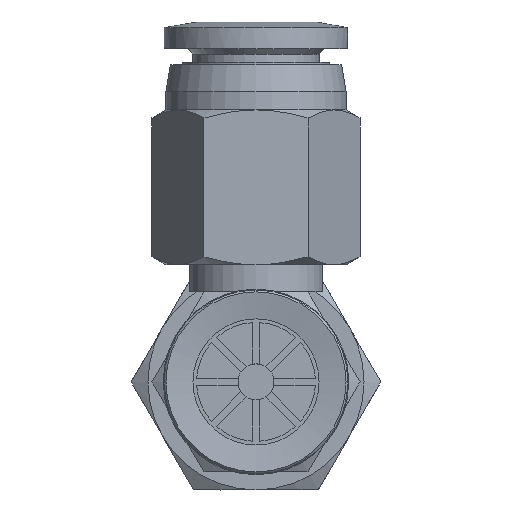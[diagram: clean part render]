
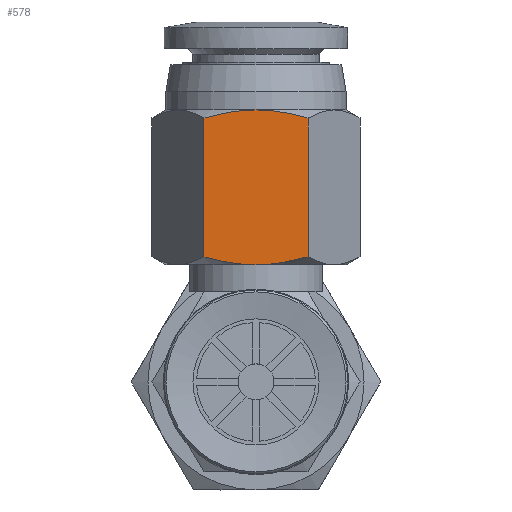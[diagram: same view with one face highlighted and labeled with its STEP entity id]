
A CAD part, front view. The second image highlights one B-rep face of the part: STEP entity #578.
In plain terms, the highlighted planar face has unit normal (0, -1, 0) as drawn and (0, 0, 1) by its records, which use the part's own axes.
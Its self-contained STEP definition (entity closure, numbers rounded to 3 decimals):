
#578=ADVANCED_FACE('',(#956),#957,.T.);
#956=FACE_OUTER_BOUND('',#1652,.T.);
#957=PLANE('',#1653);
#1652=EDGE_LOOP('',(#2655,#2656,#2657,#2658,#2659,#2660));
#1653=AXIS2_PLACEMENT_3D('',#2661,#2662,#2663);
#2655=ORIENTED_EDGE('',*,*,#3454,.F.);
#2656=ORIENTED_EDGE('',*,*,#3446,.F.);
#2657=ORIENTED_EDGE('',*,*,#3455,.F.);
#2658=ORIENTED_EDGE('',*,*,#3456,.F.);
#2659=ORIENTED_EDGE('',*,*,#3457,.T.);
#2660=ORIENTED_EDGE('',*,*,#3458,.F.);
#2661=CARTESIAN_POINT('',(-13.797,5.1,5.));
#2662=DIRECTION('',(0.0,0.0,1.0));
#2663=DIRECTION('',(1.0,0.0,0.0));
#3446=EDGE_CURVE('',#4007,#4009,#4010,.T.);
#3454=EDGE_CURVE('',#4009,#4023,#4024,.T.);
#3455=EDGE_CURVE('',#3957,#4007,#4025,.T.);
#3456=EDGE_CURVE('',#4026,#3957,#4027,.T.);
#3457=EDGE_CURVE('',#4026,#4028,#4029,.T.);
#3458=EDGE_CURVE('',#4023,#4028,#4030,.T.);
#3957=VERTEX_POINT('',#5124);
#4007=VERTEX_POINT('',#5247);
#4009=VERTEX_POINT('',#5258);
#4010=LINE('',#5259,#5260);
#4023=VERTEX_POINT('',#5320);
#4024=(B_SPLINE_CURVE(2,(#5322,#5323,#5324),.UNSPECIFIED.,.F.,.F.)B_SPLINE_CURVE_WITH_KNOTS((3,3),(0.0,0.293),.UNSPECIFIED.)RATIONAL_B_SPLINE_CURVE((1.0,1.038,1.0))BOUNDED_CURVE()REPRESENTATION_ITEM('')GEOMETRIC_REPRESENTATION_ITEM()CURVE());
#4025=(B_SPLINE_CURVE(2,(#5332,#5333,#5334),.UNSPECIFIED.,.F.,.F.)B_SPLINE_CURVE_WITH_KNOTS((3,3),(0.293,0.586),.UNSPECIFIED.)RATIONAL_B_SPLINE_CURVE((1.0,1.038,1.0))BOUNDED_CURVE()REPRESENTATION_ITEM('')GEOMETRIC_REPRESENTATION_ITEM()CURVE());
#4026=VERTEX_POINT('',#5341);
#4027=(B_SPLINE_CURVE(2,(#5343,#5344,#5345),.UNSPECIFIED.,.F.,.F.)B_SPLINE_CURVE_WITH_KNOTS((3,3),(0.0,0.293),.UNSPECIFIED.)RATIONAL_B_SPLINE_CURVE((1.0,1.038,1.0))BOUNDED_CURVE()REPRESENTATION_ITEM('')GEOMETRIC_REPRESENTATION_ITEM()CURVE());
#4028=VERTEX_POINT('',#5352);
#4029=LINE('',#5353,#5354);
#4030=(B_SPLINE_CURVE(2,(#5356,#5357,#5358),.UNSPECIFIED.,.F.,.F.)B_SPLINE_CURVE_WITH_KNOTS((3,3),(0.293,0.586),.UNSPECIFIED.)RATIONAL_B_SPLINE_CURVE((1.0,1.038,1.0))BOUNDED_CURVE()REPRESENTATION_ITEM('')GEOMETRIC_REPRESENTATION_ITEM()CURVE());
#5124=CARTESIAN_POINT('',(-13.797,13.7,5.));
#5247=CARTESIAN_POINT('',(-10.91,13.253,5.));
#5258=CARTESIAN_POINT('',(-10.91,5.547,5.));
#5259=CARTESIAN_POINT('',(-10.91,13.253,5.));
#5260=VECTOR('',#6077,1.0);
#5320=CARTESIAN_POINT('',(-13.797,5.1,5.));
#5322=CARTESIAN_POINT('',(-10.91,5.547,5.));
#5323=CARTESIAN_POINT('',(-12.457,5.1,5.));
#5324=CARTESIAN_POINT('',(-13.797,5.1,5.));
#5332=CARTESIAN_POINT('',(-13.797,13.7,5.));
#5333=CARTESIAN_POINT('',(-12.457,13.7,5.));
#5334=CARTESIAN_POINT('',(-10.91,13.253,5.));
#5341=CARTESIAN_POINT('',(-16.684,13.253,5.));
#5343=CARTESIAN_POINT('',(-16.684,13.253,5.));
#5344=CARTESIAN_POINT('',(-15.137,13.7,5.));
#5345=CARTESIAN_POINT('',(-13.797,13.7,5.));
#5352=CARTESIAN_POINT('',(-16.684,5.547,5.));
#5353=CARTESIAN_POINT('',(-16.684,13.253,5.));
#5354=VECTOR('',#6080,1.0);
#5356=CARTESIAN_POINT('',(-13.797,5.1,5.));
#5357=CARTESIAN_POINT('',(-15.137,5.1,5.));
#5358=CARTESIAN_POINT('',(-16.684,5.547,5.));
#6077=DIRECTION('',(0.0,-1.0,0.));
#6080=DIRECTION('',(0.,-1.0,0.0));
